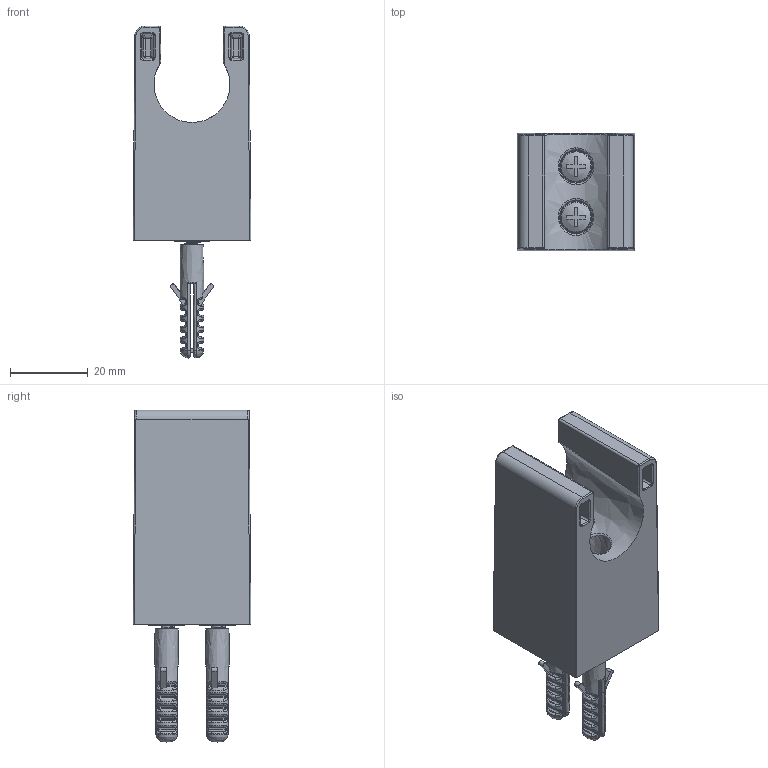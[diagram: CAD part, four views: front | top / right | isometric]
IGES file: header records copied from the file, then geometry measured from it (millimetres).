
Global section: file name: 9b6eb3fe-6ce1-4b7b-8558-8015570a8176.zip; native system: unknown; preprocessor: unknown; author: unknown; organization: unknown; date: 20191214.155134; units: millimetre
Bounding box: 30.26 x 30.26 x 85.2 mm (x, y, z)
Volume: 22847.2 mm3; surface area: 18277.6 mm2
Topology: 5 solids, 5 shells, 610 faces, 1483 edges, 896 vertices
Faces by surface type: bspline 610
